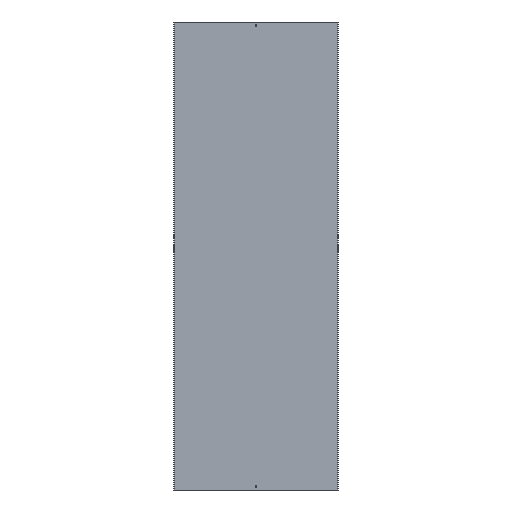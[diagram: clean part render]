
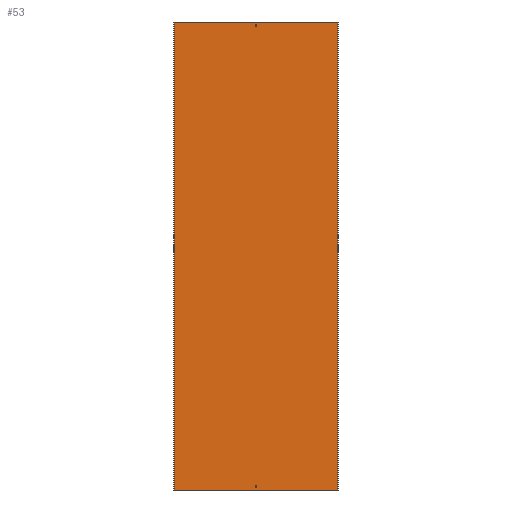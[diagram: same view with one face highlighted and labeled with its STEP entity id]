
A CAD part, front view. The second image highlights one B-rep face of the part: STEP entity #53.
In plain terms, the highlighted planar face has unit normal (0, -1, 0).
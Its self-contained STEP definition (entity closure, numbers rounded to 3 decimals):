
#7 = CARTESIAN_POINT ( 'NONE',  ( 3.25, -1.5, 1000. ) ) ;
#20 = DIRECTION ( 'NONE',  ( 0., 0., -1. ) ) ;
#21 = ORIENTED_EDGE ( 'NONE', *, *, #356, .T. ) ;
#23 = VECTOR ( 'NONE', #374, 1000. ) ;
#27 = DIRECTION ( 'NONE',  ( 1., 0., 0. ) ) ;
#34 = DIRECTION ( 'NONE',  ( -1., 0., 0. ) ) ;
#39 = ORIENTED_EDGE ( 'NONE', *, *, #88, .F. ) ;
#43 = VECTOR ( 'NONE', #126, 1000. ) ;
#45 = CARTESIAN_POINT ( 'NONE',  ( -351.5, -1.5, 1000. ) ) ;
#53 = ADVANCED_FACE ( 'NONE', ( #271, #168, #574 ), #210, .T. ) ;
#65 = DIRECTION ( 'NONE',  ( 0., 0., -1. ) ) ;
#68 = VECTOR ( 'NONE', #447, 1000. ) ;
#69 = EDGE_LOOP ( 'NONE', ( #95, #485, #476, #130 ) ) ;
#74 = VECTOR ( 'NONE', #543, 1000. ) ;
#75 = CARTESIAN_POINT ( 'NONE',  ( -351.5, -1.5, 988. ) ) ;
#79 = VERTEX_POINT ( 'NONE', #386 ) ;
#84 = VERTEX_POINT ( 'NONE', #571 ) ;
#88 = EDGE_CURVE ( 'NONE', #495, #453, #163, .T. ) ;
#95 = ORIENTED_EDGE ( 'NONE', *, *, #462, .F. ) ;
#102 = VECTOR ( 'NONE', #20, 1000. ) ;
#112 = ORIENTED_EDGE ( 'NONE', *, *, #575, .F. ) ;
#126 = DIRECTION ( 'NONE',  ( -1., 0., 0. ) ) ;
#127 = DIRECTION ( 'NONE',  ( 0., 0., -1. ) ) ;
#130 = ORIENTED_EDGE ( 'NONE', *, *, #294, .T. ) ;
#137 = CARTESIAN_POINT ( 'NONE',  ( 3.25, -1.5, -979. ) ) ;
#141 = CARTESIAN_POINT ( 'NONE',  ( -3.25, -1.5, 979. ) ) ;
#144 = CARTESIAN_POINT ( 'NONE',  ( -350., -1.5, 1000. ) ) ;
#145 = EDGE_CURVE ( 'NONE', #285, #291, #319, .T. ) ;
#147 = ORIENTED_EDGE ( 'NONE', *, *, #305, .F. ) ;
#148 = CARTESIAN_POINT ( 'NONE',  ( 350., -1.5, 1000. ) ) ;
#158 = VECTOR ( 'NONE', #65, 1000. ) ;
#159 = LINE ( 'NONE', #554, #369 ) ;
#161 = VERTEX_POINT ( 'NONE', #137 ) ;
#163 = LINE ( 'NONE', #75, #265 ) ;
#168 = FACE_OUTER_BOUND ( 'NONE', #69, .T. ) ;
#169 = VERTEX_POINT ( 'NONE', #181 ) ;
#170 = VECTOR ( 'NONE', #229, 1000. ) ;
#178 = CARTESIAN_POINT ( 'NONE',  ( -3.25, -1.5, 1000. ) ) ;
#179 = VERTEX_POINT ( 'NONE', #141 ) ;
#181 = CARTESIAN_POINT ( 'NONE',  ( 3.25, -1.5, -988. ) ) ;
#210 = PLANE ( 'NONE',  #288 ) ;
#218 = EDGE_CURVE ( 'NONE', #315, #84, #416, .T. ) ;
#220 = CARTESIAN_POINT ( 'NONE',  ( 3.25, -1.5, 979. ) ) ;
#227 = DIRECTION ( 'NONE',  ( -1., 0., 0. ) ) ;
#229 = DIRECTION ( 'NONE',  ( 0., 0., 1. ) ) ;
#240 = LINE ( 'NONE', #518, #23 ) ;
#242 = ORIENTED_EDGE ( 'NONE', *, *, #498, .T. ) ;
#252 = VECTOR ( 'NONE', #27, 1000. ) ;
#253 = EDGE_CURVE ( 'NONE', #453, #179, #584, .T. ) ;
#259 = CARTESIAN_POINT ( 'NONE',  ( 3.25, -1.5, 1000. ) ) ;
#265 = VECTOR ( 'NONE', #34, 1000. ) ;
#269 = LINE ( 'NONE', #259, #68 ) ;
#271 = FACE_BOUND ( 'NONE', #471, .T. ) ;
#284 = LINE ( 'NONE', #144, #158 ) ;
#285 = VERTEX_POINT ( 'NONE', #148 ) ;
#288 = AXIS2_PLACEMENT_3D ( 'NONE', #342, #308, #127 ) ;
#291 = VERTEX_POINT ( 'NONE', #555 ) ;
#294 = EDGE_CURVE ( 'NONE', #291, #79, #284, .T. ) ;
#305 = EDGE_CURVE ( 'NONE', #527, #495, #424, .T. ) ;
#308 = DIRECTION ( 'NONE',  ( 0., -1., 0. ) ) ;
#315 = VERTEX_POINT ( 'NONE', #426 ) ;
#319 = LINE ( 'NONE', #45, #370 ) ;
#322 = DIRECTION ( 'NONE',  ( 0., 0., 1. ) ) ;
#329 = VERTEX_POINT ( 'NONE', #508 ) ;
#334 = ORIENTED_EDGE ( 'NONE', *, *, #510, .T. ) ;
#338 = CARTESIAN_POINT ( 'NONE',  ( -3.25, -1.5, 988. ) ) ;
#342 = CARTESIAN_POINT ( 'NONE',  ( -351.5, -1.5, 1000. ) ) ;
#345 = CARTESIAN_POINT ( 'NONE',  ( -351.5, -1.5, -1000. ) ) ;
#351 = LINE ( 'NONE', #439, #252 ) ;
#356 = EDGE_CURVE ( 'NONE', #84, #161, #240, .T. ) ;
#369 = VECTOR ( 'NONE', #579, 1000. ) ;
#370 = VECTOR ( 'NONE', #227, 1000. ) ;
#374 = DIRECTION ( 'NONE',  ( 1., 0., 0. ) ) ;
#381 = CARTESIAN_POINT ( 'NONE',  ( 350., -1.5, 1000. ) ) ;
#386 = CARTESIAN_POINT ( 'NONE',  ( -350., -1.5, -1000. ) ) ;
#416 = LINE ( 'NONE', #459, #170 ) ;
#424 = LINE ( 'NONE', #7, #544 ) ;
#426 = CARTESIAN_POINT ( 'NONE',  ( -3.25, -1.5, -988. ) ) ;
#432 = LINE ( 'NONE', #381, #102 ) ;
#439 = CARTESIAN_POINT ( 'NONE',  ( -351.5, -1.5, 979. ) ) ;
#446 = ORIENTED_EDGE ( 'NONE', *, *, #253, .F. ) ;
#447 = DIRECTION ( 'NONE',  ( 0., 0., -1. ) ) ;
#453 = VERTEX_POINT ( 'NONE', #338 ) ;
#459 = CARTESIAN_POINT ( 'NONE',  ( -3.25, -1.5, 1000. ) ) ;
#462 = EDGE_CURVE ( 'NONE', #329, #79, #480, .T. ) ;
#471 = EDGE_LOOP ( 'NONE', ( #446, #39, #147, #112 ) ) ;
#476 = ORIENTED_EDGE ( 'NONE', *, *, #145, .T. ) ;
#480 = LINE ( 'NONE', #345, #43 ) ;
#485 = ORIENTED_EDGE ( 'NONE', *, *, #491, .F. ) ;
#491 = EDGE_CURVE ( 'NONE', #285, #329, #432, .T. ) ;
#495 = VERTEX_POINT ( 'NONE', #567 ) ;
#498 = EDGE_CURVE ( 'NONE', #169, #315, #159, .T. ) ;
#508 = CARTESIAN_POINT ( 'NONE',  ( 350., -1.5, -1000. ) ) ;
#510 = EDGE_CURVE ( 'NONE', #161, #169, #269, .T. ) ;
#518 = CARTESIAN_POINT ( 'NONE',  ( -351.5, -1.5, -979. ) ) ;
#522 = ORIENTED_EDGE ( 'NONE', *, *, #218, .T. ) ;
#527 = VERTEX_POINT ( 'NONE', #220 ) ;
#531 = EDGE_LOOP ( 'NONE', ( #242, #522, #21, #334 ) ) ;
#543 = DIRECTION ( 'NONE',  ( 0., 0., -1. ) ) ;
#544 = VECTOR ( 'NONE', #322, 1000. ) ;
#554 = CARTESIAN_POINT ( 'NONE',  ( -351.5, -1.5, -988. ) ) ;
#555 = CARTESIAN_POINT ( 'NONE',  ( -350., -1.5, 1000. ) ) ;
#567 = CARTESIAN_POINT ( 'NONE',  ( 3.25, -1.5, 988. ) ) ;
#571 = CARTESIAN_POINT ( 'NONE',  ( -3.25, -1.5, -979. ) ) ;
#574 = FACE_BOUND ( 'NONE', #531, .T. ) ;
#575 = EDGE_CURVE ( 'NONE', #179, #527, #351, .T. ) ;
#579 = DIRECTION ( 'NONE',  ( -1., 0., 0. ) ) ;
#584 = LINE ( 'NONE', #178, #74 ) ;
